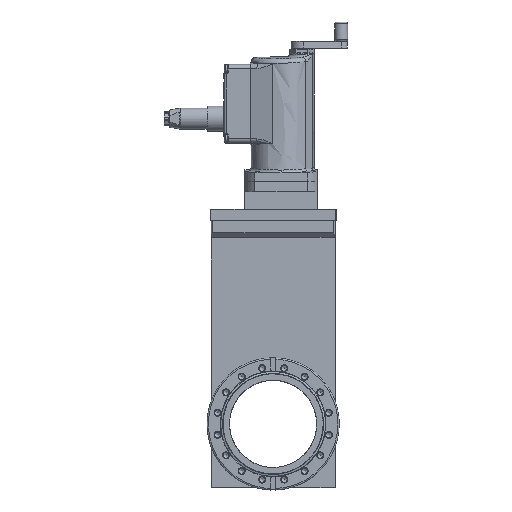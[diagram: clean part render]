
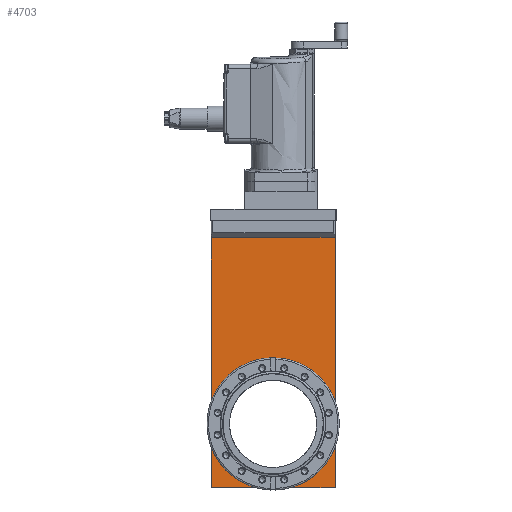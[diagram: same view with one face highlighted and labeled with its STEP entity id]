
A CAD part, top view. The second image highlights one B-rep face of the part: STEP entity #4703.
In plain terms, the highlighted free-form (B-spline) face has degree [1, 1] with [2, 2] control points.
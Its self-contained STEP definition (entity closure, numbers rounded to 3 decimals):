
#4565=CARTESIAN_POINT('V9',(50.05,0.0,0.0));
#4566=VERTEX_POINT('V9',#4565);
#4572=CARTESIAN_POINT('E13',(50.05,0.0,0.0));
#4573=CARTESIAN_POINT('E13',(50.05,-86.689,
   0.0));
#4574=CARTESIAN_POINT('E13',(-25.025,-43.345,
   0.0));
#4575=CARTESIAN_POINT('E13',(-100.1,0.,0.0)
   );
#4576=CARTESIAN_POINT('E13',(-25.025,43.345,
   0.0));
#4577=CARTESIAN_POINT('E13',(50.05,86.689,
   0.0));
#4578=CARTESIAN_POINT('E13',(50.05,0.0,0.0));
#4586=(BOUNDED_CURVE()B_SPLINE_CURVE(2,(#4572,#4573,#4574,#4575,
   #4576,#4577,#4578),.CIRCULAR_ARC.,.T.,.U.)
   B_SPLINE_CURVE_WITH_KNOTS((3,2,2,3),(0.0,0.333,
   0.667,1.0),.UNSPECIFIED.)CURVE()
   GEOMETRIC_REPRESENTATION_ITEM()RATIONAL_B_SPLINE_CURVE((1.0,
   0.5,1.0,0.5,1.0,0.5,1.0)
   )REPRESENTATION_ITEM('E13'));
#4587=EDGE_CURVE('E13',#4566,#4566,#4586,.T.);
#4598=CARTESIAN_POINT('V5',(-71.15,-233.0,0.0));
#4599=VERTEX_POINT('V5',#4598);
#4600=CARTESIAN_POINT('V1',(-71.15,73.05,
   0.0));
#4601=VERTEX_POINT('V1',#4600);
#4602=CARTESIAN_POINT('E5',(-71.15,-233.0,0.0));
#4603=CARTESIAN_POINT('E5',(-71.15,73.05,
   0.0));
#4604=QUASI_UNIFORM_CURVE('E5',1,(#4602,#4603),.POLYLINE_FORM.,.F.,
   .U.);
#4605=EDGE_CURVE('E5',#4599,#4601,#4604,.T.);
#4634=CARTESIAN_POINT('V7',(71.15,-233.0,0.0));
#4635=VERTEX_POINT('V7',#4634);
#4636=CARTESIAN_POINT('E8',(71.15,-233.0,0.0));
#4637=CARTESIAN_POINT('E8',(-71.15,-233.0,0.0));
#4638=QUASI_UNIFORM_CURVE('E8',1,(#4636,#4637),.POLYLINE_FORM.,.F.,
   .U.);
#4639=EDGE_CURVE('E8',#4635,#4599,#4638,.T.);
#4662=CARTESIAN_POINT('V2',(71.15,73.05,
   0.0));
#4663=VERTEX_POINT('V2',#4662);
#4664=CARTESIAN_POINT('E11',(71.15,-233.0,0.0));
#4665=CARTESIAN_POINT('E11',(71.15,73.05,
   0.0));
#4666=QUASI_UNIFORM_CURVE('E11',1,(#4664,#4665),.POLYLINE_FORM.,.F.,
   .U.);
#4667=EDGE_CURVE('E11',#4635,#4663,#4666,.T.);
#4685=CARTESIAN_POINT('F5',(-74.707,80.701,
   0.0));
#4686=CARTESIAN_POINT('F5',(74.707,80.701,
   0.0));
#4687=CARTESIAN_POINT('F5',(-74.707,-240.651,
   0.0));
#4688=CARTESIAN_POINT('F5',(74.707,-240.651,
   0.0));
#4689=B_SPLINE_SURFACE_WITH_KNOTS('F5',1,1,((#4685,#4687),(#4686,
   #4688)),.PLANE_SURF.,.F.,.F.,.U.,(2,2),(2,2),(0.0,1.0),(0.0,
   2.151),.UNSPECIFIED.);
#4690=ORIENTED_EDGE('E11',*,*,#4667,.T.);
#4691=CARTESIAN_POINT('E1',(-71.15,73.05,
   0.0));
#4692=CARTESIAN_POINT('E1',(71.15,73.05,
   0.0));
#4693=QUASI_UNIFORM_CURVE('E1',1,(#4691,#4692),.POLYLINE_FORM.,.F.,
   .U.);
#4694=EDGE_CURVE('E1',#4601,#4663,#4693,.T.);
#4695=ORIENTED_EDGE('E1',*,*,#4694,.F.);
#4696=ORIENTED_EDGE('E5',*,*,#4605,.F.);
#4697=ORIENTED_EDGE('E8',*,*,#4639,.F.);
#4698=EDGE_LOOP('F5',(#4690,#4695,#4696,#4697));
#4699=FACE_OUTER_BOUND('F5',#4698,.F.);
#4700=ORIENTED_EDGE('E13',*,*,#4587,.T.);
#4701=EDGE_LOOP('F5',(#4700));
#4702=FACE_BOUND('F5',#4701,.F.);
#4703=ADVANCED_FACE('F5',(#4699,#4702),#4689,.T.);
